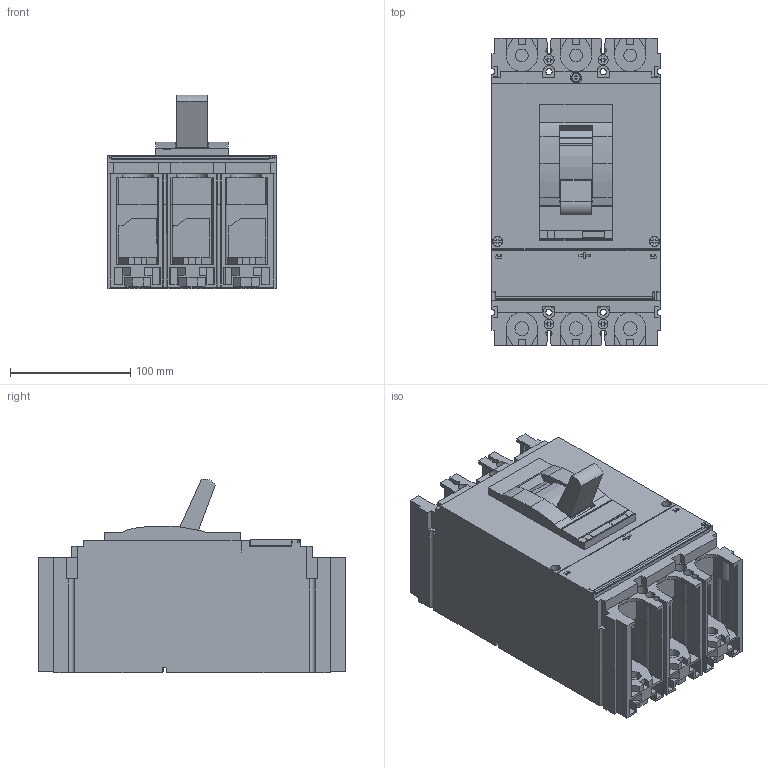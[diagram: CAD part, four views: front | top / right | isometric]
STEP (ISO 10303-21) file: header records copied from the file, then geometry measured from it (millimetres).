
FILE_DESCRIPTION((''),'2;1');
FILE_NAME('1684842097987_ASM','2023-05-23T17:12:02',('SESA644935'),('Schneider-Electric'),'CREO PARAMETRIC BY PTC INC, 2021284','CREO PARAMETRIC BY PTC INC, 2021284','');
FILE_SCHEMA(('AP242_MANAGED_MODEL_BASED_3D_ENGINEERING_MIM_LF { 1 0 10303 442 1 1 4 }'));
Length unit declared in the file: millimetre
Products named in the file (5): EMPTYNODE_1684842098025_ASM; MODEL-C2-3P-ETS; MODEL-C2-3P-ETS-CAP; MODEL-C2-3P-ETS-3D_ASM; 1684842097987_ASM
Assembly tree (4 placements, depth 3):
  1684842097987_ASM
    EMPTYNODE_1684842098025_ASM
    MODEL-C2-3P-ETS-3D_ASM
      MODEL-C2-3P-ETS
      MODEL-C2-3P-ETS-CAP
Bounding box: 139.75 x 255 x 161.05 mm (x, y, z)
Volume: 3278144 mm3; surface area: 263675.3 mm2
Topology: 4 solids, 4 shells, 996 faces, 2774 edges, 1829 vertices
Faces by surface type: plane 823, cylinder 171, extrusion 2
Entity records: 43763 total; most frequent: CARTESIAN_POINT 5706, ORIENTED_EDGE 5548, DIRECTION 5169, PRESENTATION_STYLE_ASSIGNMENT 3083, STYLED_ITEM 2778, CURVE_STYLE 2774, EDGE_CURVE 2774, VECTOR 2359
